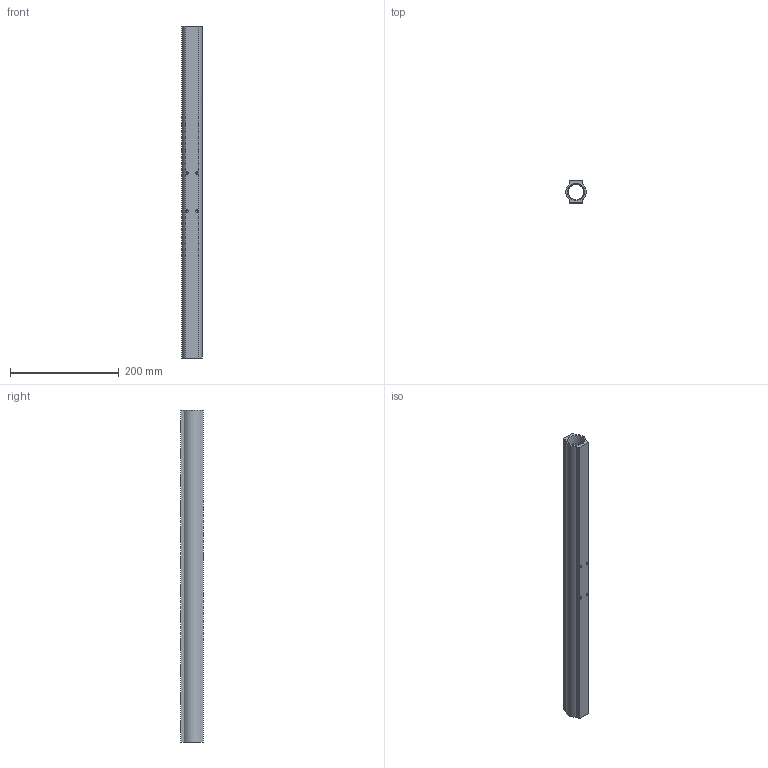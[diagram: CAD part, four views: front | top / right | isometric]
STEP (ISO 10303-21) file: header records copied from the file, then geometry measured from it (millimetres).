
FILE_DESCRIPTION (( 'STEP AP214' ), '1' );
FILE_NAME ('BWM12816R.STEP', '2022-03-15T04:40:30', ( '' ), ( '' ), 'SwSTEP 2.0', 'SolidWorks 2020', '' );
FILE_SCHEMA (( 'AUTOMOTIVE_DESIGN' ));
Length unit declared in the file: millimetre
Products named in the file (1): BWM12816R
Bounding box: 37.44 x 41 x 610 mm (x, y, z)
Volume: 333840.6 mm3; surface area: 139779.4 mm2
Topology: 1 solids, 1 shells, 232 faces, 625 edges, 410 vertices
Faces by surface type: plane 104, bspline 50, cylinder 42, cone 36
Entity records: 13315 total; most frequent: CARTESIAN_POINT 5866, ORIENTED_EDGE 1234, DIRECTION 835, EDGE_CURVE 617, VERTEX_POINT 410, LINE 305, VECTOR 305, EDGE_LOOP 281
